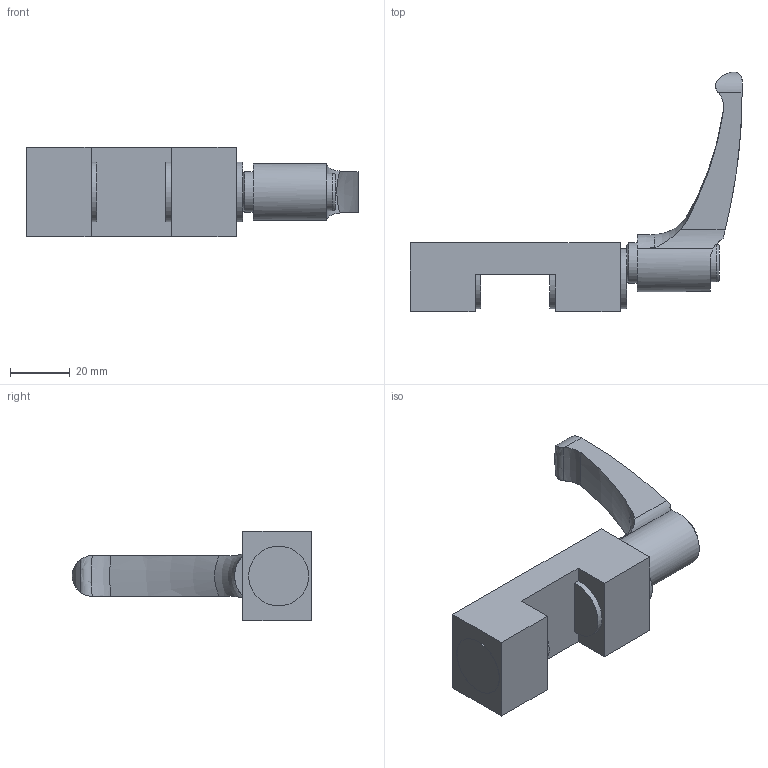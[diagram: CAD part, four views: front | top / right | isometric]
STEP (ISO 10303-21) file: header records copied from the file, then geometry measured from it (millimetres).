
FILE_DESCRIPTION(/* description */ ('STEP AP214'),/* implementation_level */ '2;1');
FILE_NAME(/* name */ 'HK2501A',/* time_stamp */ '2023-04-28T07:34:24+02:00',/* author */ ('License CC BY-ND 4.0'),/* organization */ ('CADENAS'),/* preprocessor_version */ 'ST-DEVELOPER v19.3',/* originating_system */ 'PARTsolutions',/* authorisation */ ' ');
FILE_SCHEMA (('AUTOMOTIVE_DESIGN {1 0 10303 214 3 1 1}'));
Length unit declared in the file: millimetre
Products named in the file (3): HK2501A; ELESA-Klemmhebel GN 604-63-M8-SG_NBK; ghkHK2501A133623
Assembly tree (2 placements, depth 2):
  HK2501A
    ELESA-Klemmhebel GN 604-63-M8-SG_NBK
    ghkHK2501A133623
Bounding box: 110.7 x 79.83 x 30 mm (x, y, z)
Volume: 53683.7 mm3; surface area: 14587.2 mm2
Topology: 2 solids, 2 shells, 64 faces, 160 edges, 105 vertices
Faces by surface type: plane 29, cylinder 17, cone 10, torus 8
Full cylindrical faces by diameter (mm): 4.917 x4, 6.647 x1, 12.5 x1, 13.5 x1, 20 x2
Entity records: 1906 total; most frequent: CARTESIAN_POINT 461, DIRECTION 276, ORIENTED_EDGE 258, EDGE_CURVE 129, AXIS2_PLACEMENT_3D 108, VERTEX_POINT 97, FACE_BOUND 92, EDGE_LOOP 88
